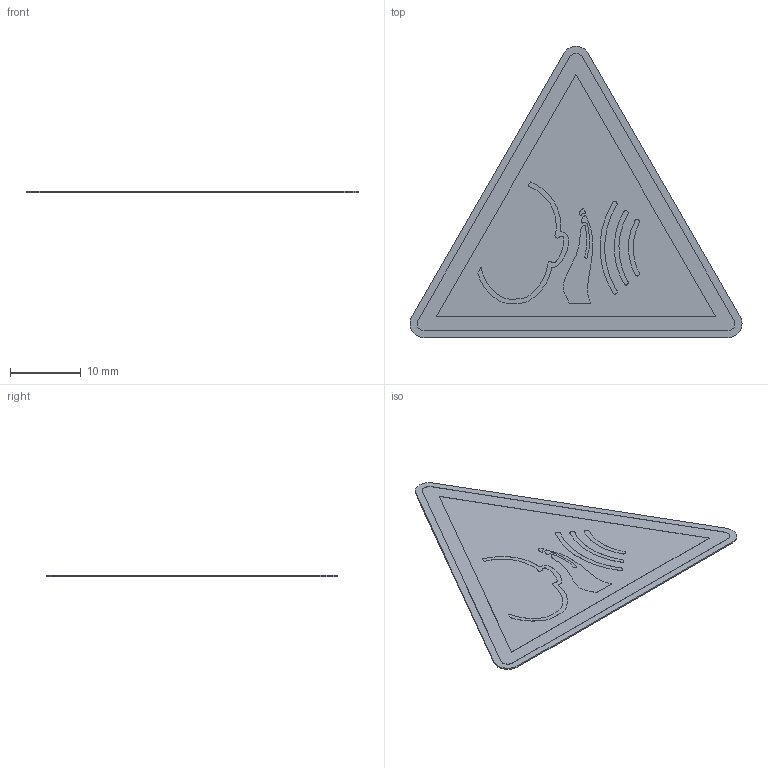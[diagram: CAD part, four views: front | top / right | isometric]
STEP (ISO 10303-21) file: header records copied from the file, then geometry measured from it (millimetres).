
FILE_DESCRIPTION (( 'STEP AP214' ), '1' );
FILE_NAME ('W038_Warnung vor unvermittelt auftretendem lauten Geräusch.STEP', '2022-03-03T14:11:09', ( '' ), ( '' ), 'SwSTEP 2.0', 'SolidWorks 2021', '' );
FILE_SCHEMA (( 'AUTOMOTIVE_DESIGN' ));
Length unit declared in the file: millimetre
Products named in the file (1): W038_Warnung vor unvermittelt auftretendem lauten Geräusch
Bounding box: 47.07 x 41.3 x 0.22 mm (x, y, z)
Volume: 220.7 mm3; surface area: 2183.8 mm2
Topology: 1 solids, 1 shells, 151 faces, 423 edges, 282 vertices
Faces by surface type: plane 98, cylinder 53
Entity records: 6459 total; most frequent: CARTESIAN_POINT 857, ORIENTED_EDGE 846, DIRECTION 833, EDGE_CURVE 423, VECTOR 317, LINE 317, VERTEX_POINT 282, AXIS2_PLACEMENT_3D 258
